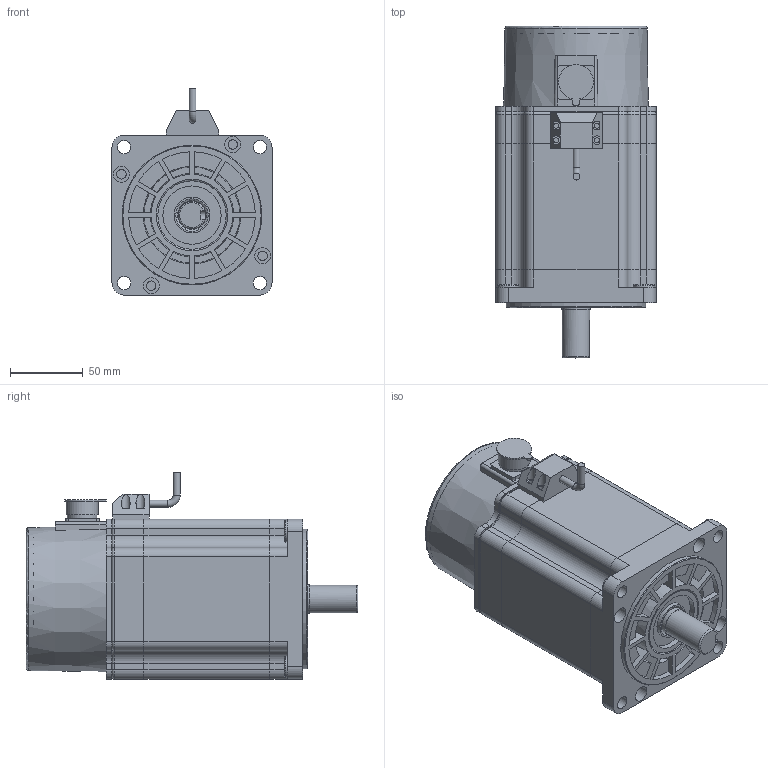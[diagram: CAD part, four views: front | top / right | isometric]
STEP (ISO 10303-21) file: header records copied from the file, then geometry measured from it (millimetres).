
FILE_DESCRIPTION(/* description */ (''),/* implementation_level */ '2;1');
FILE_NAME(/* name */ '110BYG350B(止口φ95).stp',/* time_stamp */ '2024-08-16T09:53:29+08:00',/* author */ (''),/* organization */ (''),/* preprocessor_version */ 'ST-DEVELOPER v18.1',/* originating_system */ 'SIEMENS PLM Software NX 2000',/* authorisation */ '');
FILE_SCHEMA (('AUTOMOTIVE_DESIGN { 1 0 10303 214 3 1 1 1 }'));
Length unit declared in the file: millimetre
Products named in the file (1): 925032A4A3696tl2
Bounding box: 110 x 228 x 141.72 mm (x, y, z)
Volume: 1351863.8 mm3; surface area: 227426.4 mm2
Topology: 10 solids, 10 shells, 669 faces, 1833 edges, 1216 vertices
Faces by surface type: plane 425, cylinder 178, cone 33, torus 33
Full cylindrical faces by diameter (mm): 3 x4, 3.5 x4, 4.8 x2, 6 x4, 6.5 x12, 7 x1, 9 x4, 11 x4, 15 x4, 16.5 x1, 19 x1, 19.7 x1, 20 x1, 20.196 x2, 22.032 x1, 22.288 x1, 24.616 x1, 40 x1, 47 x3, 50 x1, 56 x1, 69 x1, 70 x1, 96 x1
Entity records: 21488 total; most frequent: CARTESIAN_POINT 4448, DIRECTION 3432, ORIENTED_EDGE 3420, EDGE_CURVE 1710, VERTEX_POINT 1172, AXIS2_PLACEMENT_3D 1158, LINE 1116, VECTOR 1116
